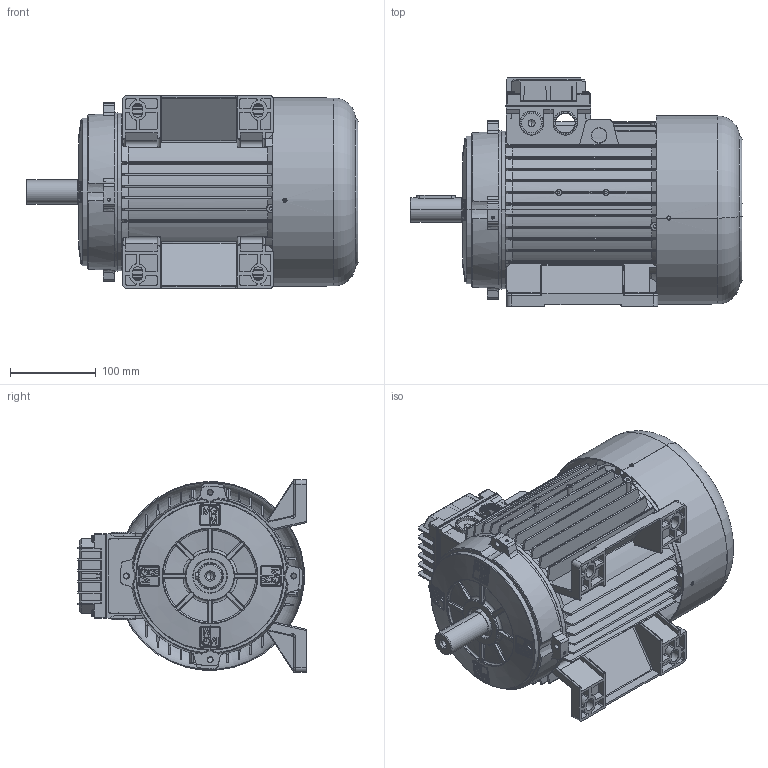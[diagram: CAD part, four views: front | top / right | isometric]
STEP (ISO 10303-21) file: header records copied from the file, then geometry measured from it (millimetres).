
FILE_DESCRIPTION (( 'STEP AP214' ), '1' );
FILE_NAME ('M24HA0010.STEP', '2019-09-30T14:44:43', ( '' ), ( '' ), 'SwSTEP 2.0', 'SolidWorks 2018', '' );
FILE_SCHEMA (( 'AUTOMOTIVE_DESIGN' ));
Length unit declared in the file: millimetre
Products named in the file (11): Cuffia SM 112; Scudo Posteriore SM 112 - DFED0016; Chiavetta 100-112; Albero SM 112; Scudo Lato Comando B3 BA-BM 112 - DFAD0194; Coperchio per Scatola Singola 90 - 100 - 112 con viti; Guarnizione Coperchio Semplice Scatola BA 90 100 112 - DDAL0094; Vite per coperchio morsettiera; Coperchio per Scatola Singola 90 - 100 - 112; Carcassa 112 B3; M24HA0010
Assembly tree (13 placements, depth 3):
  M24HA0010
    Carcassa 112 B3
    Coperchio per Scatola Singola 90 - 100 - 112 con viti
      Coperchio per Scatola Singola 90 - 100 - 112
      Vite per coperchio morsettiera  x4
      Guarnizione Coperchio Semplice Scatola BA 90 100 112 - DDAL0094
    Scudo Lato Comando B3 BA-BM 112 - DFAD0194
    Albero SM 112
    Chiavetta 100-112
    Scudo Posteriore SM 112 - DFED0016
    Cuffia SM 112
Bounding box: 386.23 x 266 x 224 mm (x, y, z)
Volume: 1806893.6 mm3; surface area: 1032788.5 mm2
Topology: 12 solids, 12 shells, 3582 faces, 9454 edges, 5912 vertices
Faces by surface type: plane 1447, cylinder 906, bspline 587, cone 310, torus 284, sphere 48
Entity records: 133267 total; most frequent: CARTESIAN_POINT 52872, ORIENTED_EDGE 17944, DIRECTION 14397, EDGE_CURVE 8972, VERTEX_POINT 5678, AXIS2_PLACEMENT_3D 5120, VECTOR 4157, LINE 4157
